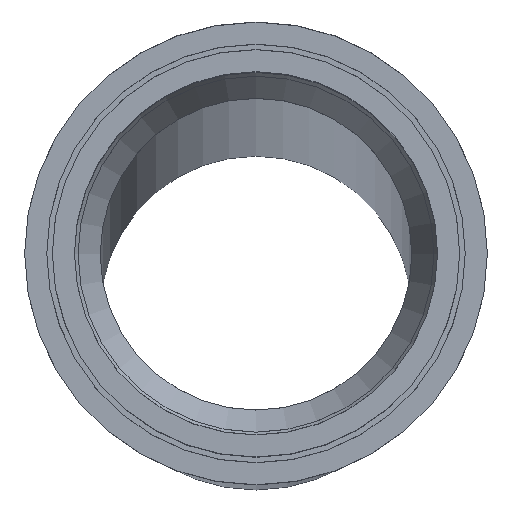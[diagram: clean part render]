
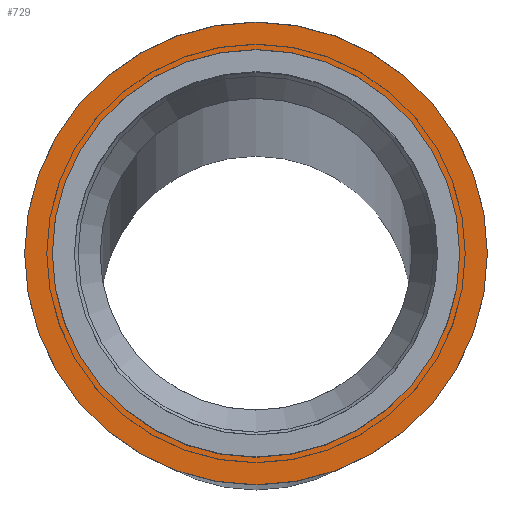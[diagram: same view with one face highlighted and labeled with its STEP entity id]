
A CAD part, top view. The second image highlights one B-rep face of the part: STEP entity #729.
In plain terms, the highlighted planar face has unit normal (0, 0, 1) as drawn and (1, 0, 0) by its records, which use the part's own axes.
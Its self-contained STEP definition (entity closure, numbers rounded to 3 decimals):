
#110=PLANE($,#811);
#138=FACE_BOUND($,#249,.T.);
#139=FACE_BOUND($,#250,.T.);
#249=EDGE_LOOP($,(#620));
#250=EDGE_LOOP($,(#621));
#299=CIRCLE($,#810,20.9);
#300=CIRCLE($,#812,18.4);
#370=VERTEX_POINT($,#1911);
#371=VERTEX_POINT($,#1914);
#457=EDGE_CURVE($,#370,#370,#299,.T.);
#458=EDGE_CURVE($,#371,#371,#300,.T.);
#620=ORIENTED_EDGE($,*,*,#458,.F.);
#621=ORIENTED_EDGE($,*,*,#457,.T.);
#729=ADVANCED_FACE($,(#138,#139),#110,.T.);
#810=AXIS2_PLACEMENT_3D($,#1912,#967,#968);
#811=AXIS2_PLACEMENT_3D($,#1913,#969,#970);
#812=AXIS2_PLACEMENT_3D($,#1915,#971,#972);
#967=DIRECTION('center_axis',(1.,0.,0.));
#968=DIRECTION('ref_axis',(0.,1.,0.));
#969=DIRECTION('center_axis',(1.,0.,0.));
#970=DIRECTION('ref_axis',(0.,0.,-1.));
#971=DIRECTION('center_axis',(1.,0.,0.));
#972=DIRECTION('ref_axis',(0.,1.,0.));
#1911=CARTESIAN_POINT('',(43.,20.9,0.));
#1912=CARTESIAN_POINT('Origin',(43.,0.,0.));
#1913=CARTESIAN_POINT('Origin',(43.,19.65,0.));
#1914=CARTESIAN_POINT('',(43.,18.4,0.));
#1915=CARTESIAN_POINT('Origin',(43.,0.,0.));
